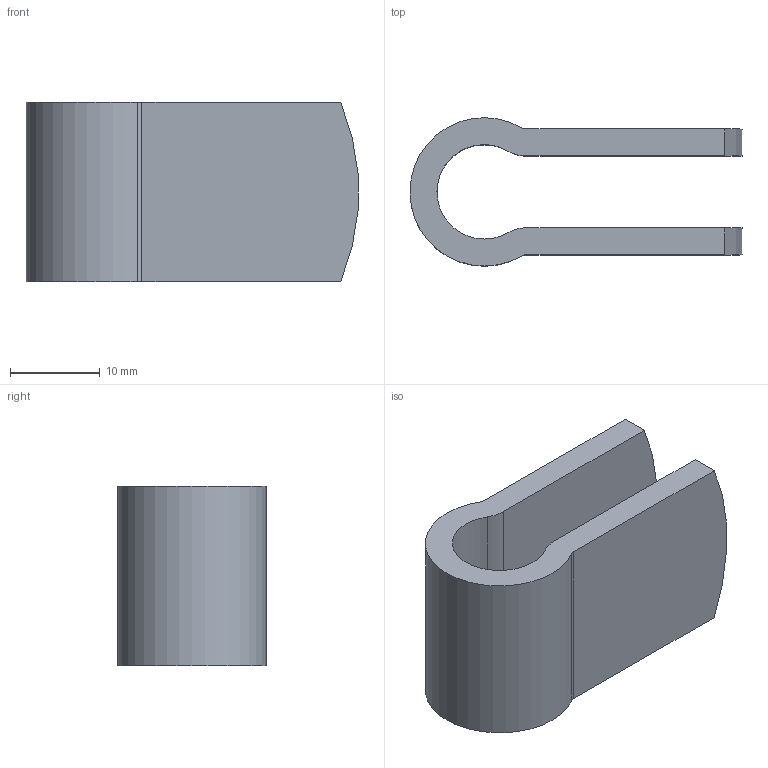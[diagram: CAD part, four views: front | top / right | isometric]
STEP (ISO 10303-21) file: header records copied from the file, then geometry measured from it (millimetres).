
FILE_DESCRIPTION(/* description */ (''),/* implementation_level */ '2;1');
FILE_NAME(/* name */ '941-4.stp',/* time_stamp */ '2019-04-09T14:25:13+03:00',/* author */ (''),/* organization */ (''),/* preprocessor_version */ 'ST-DEVELOPER v15',/* originating_system */ 'SIEMENS PLM Software NX 8.5',/* authorisation */ '');
FILE_SCHEMA (('AUTOMOTIVE_DESIGN { 1 0 10303 214 3 1 1 1 }'));
Length unit declared in the file: millimetre
Products named in the file (1): AKTA15DC1912oifg
Bounding box: 36.92 x 16.5 x 20 mm (x, y, z)
Volume: 4670.2 mm3; surface area: 3687.5 mm2
Topology: 1 solids, 1 shells, 14 faces, 36 edges, 24 vertices
Faces by surface type: cylinder 8, plane 6
Entity records: 468 total; most frequent: DIRECTION 82, CARTESIAN_POINT 75, ORIENTED_EDGE 72, EDGE_CURVE 36, AXIS2_PLACEMENT_3D 31, VERTEX_POINT 24, LINE 20, VECTOR 20
